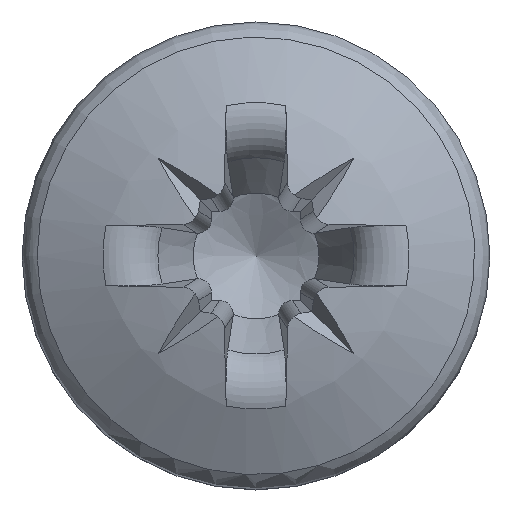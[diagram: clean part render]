
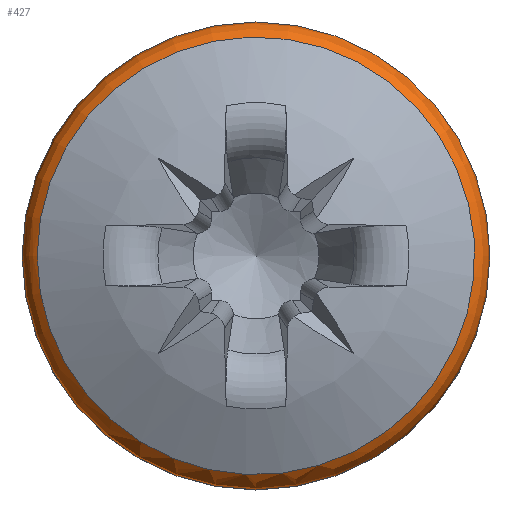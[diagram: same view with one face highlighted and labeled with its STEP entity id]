
A CAD part, top view. The second image highlights one B-rep face of the part: STEP entity #427.
In plain terms, the highlighted toroidal (fillet/blend) face has major radius 1.387 mm and minor radius 0.213 mm.
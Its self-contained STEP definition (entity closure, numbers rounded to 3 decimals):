
#349=TOROIDAL_SURFACE('',#2147,1.387,0.213);
#364=FACE_BOUND('',#684,.T.);
#365=FACE_BOUND('',#685,.T.);
#427=ADVANCED_FACE('',(#364,#365),#349,.T.);
#684=EDGE_LOOP('',(#1107));
#685=EDGE_LOOP('',(#1108));
#766=CIRCLE('',#2057,1.497);
#792=CIRCLE('',#2088,1.6);
#1107=ORIENTED_EDGE('',*,*,#1689,.F.);
#1108=ORIENTED_EDGE('',*,*,#1649,.F.);
#1459=VERTEX_POINT('',#5157);
#1497=VERTEX_POINT('',#5417);
#1649=EDGE_CURVE('',#1459,#1459,#766,.T.);
#1689=EDGE_CURVE('',#1497,#1497,#792,.T.);
#2057=AXIS2_PLACEMENT_3D('',#5156,#2166,#2167);
#2088=AXIS2_PLACEMENT_3D('',#5416,#2228,#2229);
#2147=AXIS2_PLACEMENT_3D('',#5933,#2378,#2379);
#2166=DIRECTION('',(0.,0.,1.));
#2167=DIRECTION('',(-1.,0.,0.));
#2228=DIRECTION('',(0.,0.,-1.));
#2229=DIRECTION('',(-1.,0.,0.));
#2378=DIRECTION('',(0.,0.,-1.));
#2379=DIRECTION('',(-1.,0.,0.));
#5156=CARTESIAN_POINT('',(0.,0.,0.785));
#5157=CARTESIAN_POINT('',(-1.497,0.,0.785));
#5416=CARTESIAN_POINT('',(0.,0.,0.602));
#5417=CARTESIAN_POINT('',(-1.6,0.,0.602));
#5933=CARTESIAN_POINT('',(0.,0.,0.602));
